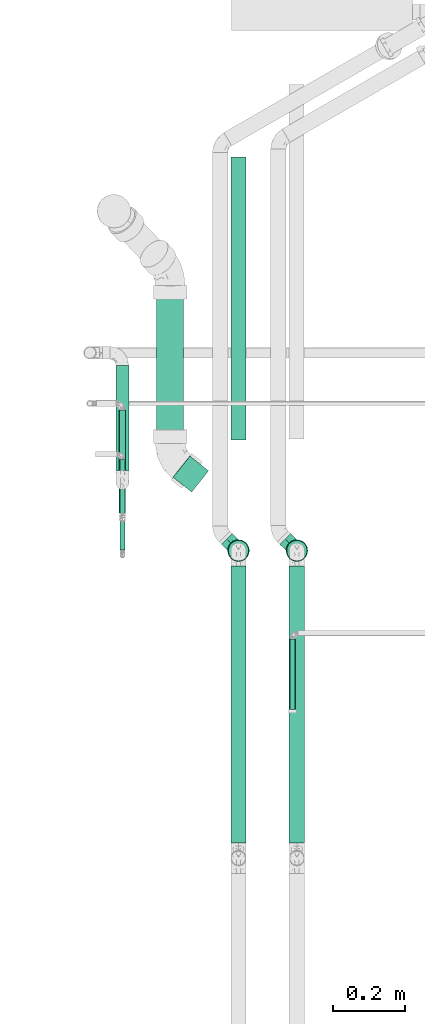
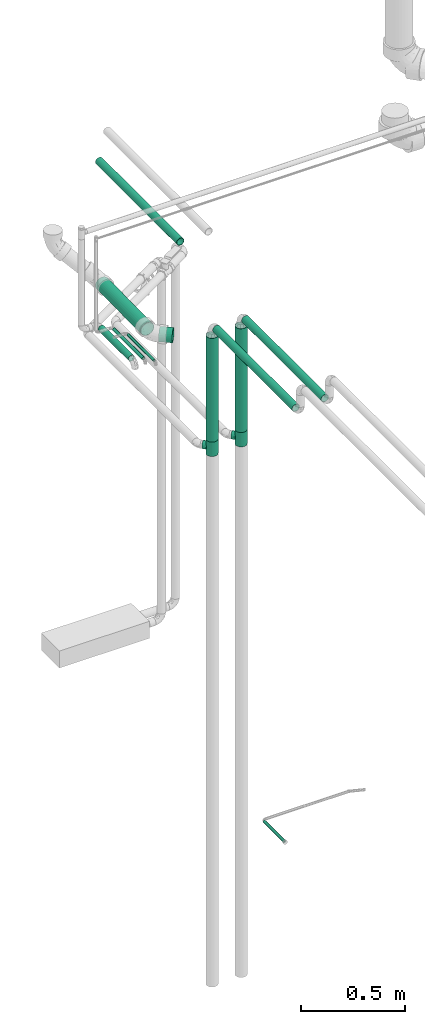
# One storey, part 35 of 108: 11 flow segments, 2 flow fittings.
"""IFC2X3 building model written with IfcOpenShell, lengths in millimetres."""

from ifc_helpers import new_model, entity, si_unit, converted_unit, derived_unit, direction, frame, origin_with_axes, origin_2d_with_axis, place, context, subcontext, project, spatial, hollow_circle, extrude, open_shell, surface_model, source, transform, mapped, type_object, element, save


model = new_model("IFC2X3")

# Units and contexts
model_context = context("Model", 3, precision=0.01, world=frame((0.0, 4.29681676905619e-09, 0.0)), true_north=direction((4.01073788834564e-13, 1.0)))
plan_context = context("Plan", 3, precision=0.01, world=frame((0.0, 4.29681676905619e-09, 0.0)), true_north=direction((4.01073788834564e-13, 1.0)))
body_context = subcontext(model_context, "Body", "Model", "MODEL_VIEW")
ifc_project = project(units=[converted_unit("PLANEANGLEUNIT", "DEGREE", entity("IfcPositiveLengthMeasure", 0.0174532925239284), si_unit("PLANEANGLEUNIT", "RADIAN"), dimensions=[0, 0, 0, 0, 0, 0, 0]), si_unit("AREAUNIT", "SQUARE_METRE"), si_unit("LENGTHUNIT", "METRE", prefix="MILLI"), si_unit("MASSUNIT", "GRAM", prefix="KILO"), si_unit("POWERUNIT", "WATT"), si_unit("PRESSUREUNIT", "PASCAL", prefix="KILO"), si_unit("FORCEUNIT", "NEWTON", prefix="KILO"), si_unit("ELECTRICVOLTAGEUNIT", "VOLT"), si_unit("ELECTRICCURRENTUNIT", "AMPERE"), si_unit("THERMODYNAMICTEMPERATUREUNIT", "DEGREE_CELSIUS"), si_unit("TIMEUNIT", "SECOND"), si_unit("VOLUMEUNIT", "CUBIC_METRE"), derived_unit("LINEARVELOCITYUNIT", [(si_unit("LENGTHUNIT", "METRE"), 1), (si_unit("TIMEUNIT", "SECOND"), -1)]), derived_unit("VOLUMETRICFLOWRATEUNIT", [(si_unit("VOLUMEUNIT", "CUBIC_METRE"), 1), (si_unit("TIMEUNIT", "SECOND"), -1)]), derived_unit("THERMALTRANSMITTANCEUNIT", [(si_unit("POWERUNIT", "WATT"), 1), (si_unit("THERMODYNAMICTEMPERATUREUNIT", "KELVIN"), -1), (si_unit("AREAUNIT", "SQUARE_METRE"), -1)]), derived_unit("SOUNDPRESSUREUNIT", [(si_unit("PRESSUREUNIT", "PASCAL"), 1)])], contexts=[model_context, plan_context])

# Site, building, storey
site_placement = place(None, frame((0.0, -4.29681676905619e-09, 0.0), z_axis=(0.0, 0.0, 1.0), x_axis=(1.0, 0.0, 0.0)))
site = spatial("IfcSite", under=ifc_project, at=site_placement, CompositionType="ELEMENT")
building_placement = place(site_placement, frame((0.0, 4.29681676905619e-09, 0.0), z_axis=(0.0, 0.0, 1.0), x_axis=(1.0, 0.0, 0.0)))
building = spatial("IfcBuilding", under=site, at=building_placement, Name="mc-building", CompositionType="ELEMENT")
storey_placement = place(building_placement, frame((0.0, 0.0, 210200.0), z_axis=(0.0, 0.0, 1.0), x_axis=(1.0, 0.0, 0.0)))
storey = spatial("IfcBuildingStorey", under=building, at=storey_placement, Name="Nivå F - 0,7 m", CompositionType="ELEMENT", Elevation=210200.0)

# Flow fittings
pipe_fitting_type = type_object("IfcPipeFittingType", Name="magi_pipe_fe_tee_centric_90_001", PredefinedType="JUNCTION")
shared_shape_1 = source(origin_with_axes(), body_context, "Body", "SurfaceModel", [
    surface_model("IfcShellBasedSurfaceModel", [(-42.4, 15.1, -26.15397), (-42.4, 7.81634, -29.17096), (-42.4, 0.0, -30.2), (-42.4, 29.17096, -7.81634), (-42.4, 26.15397, -15.1), (-42.4, 21.35462, -21.35462), (-42.4, 30.2, 0.0), (-42.4, -30.2, 0.0), (-42.4, -15.1, -26.15397), (-42.4, -21.35462, -21.35462), (-42.4, -7.81634, -29.17096), (-42.4, -26.15397, -15.1), (-42.4, -29.17096, -7.81634), (-42.4, 26.15397, 15.1), (-42.4, 29.17096, 7.81634), (-42.4, 15.1, 26.15397), (-42.4, -21.35462, 21.35462), (-42.4, 21.35462, 21.35462), (-42.4, 7.81634, 29.17096), (-42.4, -29.17096, 7.81634), (-42.4, -26.15397, 15.1), (-42.4, -15.1, 26.15397), (-42.4, -7.81634, 29.17096), (-42.4, 0.0, 30.2), (42.4, 29.17096, -7.81634), (42.4, 0.0, -30.2), (42.4, 7.81634, -29.17096), (42.4, 21.35462, -21.35462), (42.4, 15.1, -26.15397), (42.4, 26.15397, -15.1), (42.4, -15.1, -26.15397), (42.4, -29.17096, -7.81634), (42.4, -21.35462, -21.35462), (42.4, -7.81634, -29.17096), (42.4, -26.15397, -15.1), (42.4, -30.2, 0.0), (42.4, 30.2, 0.0), (42.4, 29.17096, 7.81634), (42.4, 26.15397, 15.1), (42.4, -15.1, 26.15397), (42.4, 15.1, 26.15397), (42.4, 7.81634, 29.17096), (42.4, 21.35462, 21.35462), (42.4, 0.0, 30.2), (42.4, -26.15397, 15.1), (42.4, -29.17096, 7.81634), (42.4, -21.35462, 21.35462), (42.4, -7.81634, 29.17096), (19.84181, -29.26256, 7.46609), (21.2, -30.2, 0.0), (16.14301, -26.89232, 13.74202), (42.4, -23.7543, 18.22731), (10.69837, -24.02197, 18.30259), (3.8093, -21.84287, 20.85496), (-3.8158, -21.844, 20.85377), (-10.70022, -24.0228, 18.30151), (-42.4, -23.7543, 18.22731), (-21.2, -30.2, 0.0), (-19.84258, -29.26308, 7.46405), (-16.14727, -26.89488, 13.73701), (3.8093, -21.84287, -20.85496), (42.4, -23.7543, -18.22731), (10.69837, -24.02197, -18.30259), (-10.70022, -24.0228, -18.30151), (-42.4, -23.7543, -18.22731), (16.14301, -26.89232, -13.74202), (-3.8158, -21.844, -20.85377), (19.84181, -29.26256, -7.46609), (-16.14727, -26.89488, -13.73701), (-19.84258, -29.26308, -7.46405), (14.99066, -45.3, -14.99066), (0.0, -45.3, -21.2), (5.48696, -45.3, -20.47763), (10.6, -45.3, -18.35974), (18.35974, -45.3, -10.6), (20.47763, -45.3, -5.48696), (-21.2, -45.3, 0.0), (-10.6, -45.3, 18.35974), (-5.48696, -45.3, -20.47763), (-14.99066, -45.3, -14.99066), (-10.6, -45.3, -18.35974), (-18.35974, -45.3, -10.6), (-20.47763, -45.3, -5.48696), (20.47763, -45.3, 5.48696), (18.35974, -45.3, 10.6), (10.6, -45.3, 18.35974), (14.99066, -45.3, 14.99066), (0.0, -45.3, 21.2), (5.48696, -45.3, 20.47763), (-14.99066, -45.3, 14.99066), (-18.35974, -45.3, 10.6), (-20.47763, -45.3, 5.48696), (-5.48696, -45.3, 20.47763), (21.2, -45.3, 0.0), (-20.52129, -29.73154, 3.73203), (-0.00325, -21.84343, 20.85436), (20.52091, -29.73128, 3.73304), (20.52091, -29.73128, -3.73304), (-0.00325, -21.84343, -20.85436), (-20.52129, -29.73154, -3.73203)], [open_shell([[[0, 1, 2]], [[3, 0, 2]], [[0, 3, 4]], [[5, 0, 4]], [[6, 2, 7]], [[8, 9, 10]], [[9, 2, 10]], [[11, 12, 9]], [[7, 9, 12]], [[9, 7, 2]], [[6, 3, 2]], [[13, 14, 6]], [[7, 15, 13]], [[7, 16, 15]], [[17, 13, 15]], [[18, 15, 16]], [[19, 20, 7]], [[7, 20, 16]], [[21, 22, 16]], [[23, 16, 22]], [[16, 23, 18]], [[7, 13, 6]], [[24, 25, 26]], [[27, 26, 28]], [[27, 29, 24]], [[27, 24, 26]], [[25, 24, 30]], [[30, 31, 32]], [[30, 33, 25]], [[32, 31, 34]], [[31, 30, 35]], [[24, 35, 30]], [[24, 36, 35]], [[36, 37, 38]], [[39, 36, 38]], [[40, 41, 38]], [[40, 38, 42]], [[43, 38, 41]], [[35, 44, 45]], [[46, 44, 35]], [[39, 43, 47]], [[46, 36, 39]], [[38, 43, 39]], [[46, 35, 36]], [[35, 45, 48]], [[48, 49, 35]], [[45, 50, 48]], [[51, 46, 52]], [[52, 50, 44]], [[53, 52, 46]], [[54, 53, 21]], [[44, 50, 45]], [[55, 16, 56]], [[57, 58, 7]], [[19, 7, 58]], [[58, 59, 19]], [[55, 54, 16]], [[55, 20, 59]], [[20, 55, 56]], [[59, 20, 19]], [[16, 54, 21]], [[52, 44, 51]], [[53, 46, 39]], [[23, 47, 43]], [[22, 39, 47]], [[18, 43, 41]], [[38, 37, 14]], [[17, 40, 42]], [[13, 42, 38]], [[41, 40, 15]], [[6, 37, 36]], [[21, 39, 22]], [[22, 47, 23]], [[18, 23, 43]], [[41, 15, 18]], [[15, 40, 17]], [[13, 17, 42]], [[14, 13, 38]], [[37, 6, 14]], [[39, 21, 53]], [[4, 24, 29]], [[3, 36, 24]], [[5, 29, 27]], [[25, 33, 10]], [[1, 28, 26]], [[2, 26, 25]], [[27, 28, 0]], [[8, 33, 30]], [[6, 36, 3]], [[3, 24, 4]], [[5, 4, 29]], [[27, 0, 5]], [[0, 28, 1]], [[2, 1, 26]], [[10, 2, 25]], [[33, 8, 10]], [[30, 60, 8]], [[61, 34, 62]], [[63, 11, 64]], [[62, 60, 32]], [[34, 65, 62]], [[66, 8, 60]], [[31, 35, 67]], [[67, 65, 31]], [[49, 67, 35]], [[31, 65, 34]], [[66, 63, 9]], [[62, 32, 61]], [[64, 9, 63]], [[63, 68, 11]], [[9, 8, 66]], [[68, 69, 12]], [[69, 7, 12]], [[7, 69, 57]], [[68, 12, 11]], [[60, 30, 32]], [[70, 71, 72]], [[70, 72, 73]], [[70, 74, 75]], [[70, 75, 71]], [[76, 71, 77]], [[78, 79, 80]], [[78, 71, 79]], [[81, 76, 82]], [[79, 71, 81]], [[71, 76, 81]], [[71, 75, 77]], [[83, 84, 75]], [[84, 85, 75]], [[85, 77, 75]], [[85, 84, 86]], [[87, 85, 88]], [[76, 89, 90]], [[91, 76, 90]], [[77, 87, 92]], [[77, 89, 76]], [[85, 87, 77]], [[75, 93, 83]], [[91, 94, 76]], [[59, 90, 89]], [[91, 90, 58]], [[89, 77, 55]], [[94, 57, 76]], [[58, 90, 59]], [[55, 92, 54]], [[55, 59, 89]], [[87, 53, 95]], [[55, 77, 92]], [[87, 88, 53]], [[96, 48, 83]], [[52, 88, 85]], [[48, 84, 83]], [[96, 93, 49]], [[87, 54, 92]], [[91, 58, 94]], [[88, 52, 53]], [[52, 85, 86]], [[52, 86, 50]], [[50, 86, 84]], [[50, 84, 48]], [[93, 96, 83]], [[95, 54, 87]], [[75, 97, 93]], [[65, 74, 70]], [[75, 74, 67]], [[70, 73, 62]], [[97, 49, 93]], [[67, 74, 65]], [[62, 72, 60]], [[62, 65, 70]], [[71, 66, 98]], [[62, 73, 72]], [[99, 76, 57]], [[99, 69, 82]], [[63, 80, 79]], [[75, 67, 97]], [[69, 81, 82]], [[81, 68, 79]], [[71, 60, 72]], [[66, 78, 63]], [[66, 71, 78]], [[78, 80, 63]], [[63, 79, 68]], [[68, 81, 69]], [[76, 99, 82]], [[98, 60, 71]]])]),
])
for number, where, z_axis, x_axis, name in (
    (1, (324610.22236, 462903.525, 2171.0), (0.707106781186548, 0.707106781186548, 0.0), (0.0, 0.0, 1.0), "magi_pipe_fe_tee_centric_90_001"),
    (2, (324448.8625, 462903.525, 2171.0), (0.707106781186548, 0.707106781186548, 0.0), (0.0, 0.0, 1.0), "magi_pipe_fe_tee_centric_90_001"),
):
    element("IfcFlowFitting", number, at=place(storey_placement, frame(where, z_axis=z_axis, x_axis=x_axis)), inside=storey, type_object=pipe_fitting_type, Name=name, context=body_context, shape_type="MappedRepresentation", body=[
        mapped(shared_shape_1, transform((0.0, 0.0, 0.0), scale=1.0)),
    ])

# Flow segments
pipe_segment_type_1 = type_object("IfcPipeSegmentType", Name="Stålrør normaltykke", PredefinedType="RIGIDSEGMENT")
shared_shape_2 = source(origin_with_axes(), body_context, "Body", "SweptSolid", [
    extrude(hollow_circle(Radius=21.2, WallThickness=2.0, at=origin_2d_with_axis()), frame((0.0, 0.0, 0.0), z_axis=(1.0, 0.0, 0.0), x_axis=(0.0, 1.0, 0.0)), (0.0, 0.0, 1.0), 764.6),
])
for number, where, z_axis, x_axis in (
    (3, (324610.22236, 462096.52277, 2883.28479999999), (0.0, 0.0, 1.0), (0.0, 1.0, 0.0)),
    (4, (324448.8625, 462096.52277, 2883.28479999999), (0.0, 0.0, 1.0), (0.0, 1.0, 0.0)),
):
    element("IfcFlowSegment", number, at=place(storey_placement, frame(where, z_axis=z_axis, x_axis=x_axis)), inside=storey, type_object=pipe_segment_type_1, Name="Stålrør normaltykke", context=body_context, shape_type="MappedRepresentation", body=[
        mapped(shared_shape_2, transform((0.0, 0.0, 0.0), scale=1.0)),
    ])
shared_shape_3 = source(origin_with_axes(), body_context, "Body", "SweptSolid", [
    extrude(hollow_circle(Radius=21.2, WallThickness=2.0, at=origin_2d_with_axis()), frame((0.0, 0.0, 0.0), z_axis=(1.0, 0.0, 0.0), x_axis=(0.0, 1.0, 0.0)), (0.0, 0.0, 1.0), 781.5),
])
flow_segment_1_placement = place(storey_placement, frame((324448.8625, 463990.06537, 3186.0), z_axis=(0.0, 0.0, 1.0), x_axis=(0.0, -1.0, 0.0)))
element("IfcFlowSegment", 5, at=flow_segment_1_placement, inside=storey, type_object=pipe_segment_type_1, Name="Stålrør normaltykke", context=body_context, shape_type="MappedRepresentation", body=[
    mapped(shared_shape_3, transform((0.0, 0.0, 0.0), scale=1.0)),
])
pipe_segment_type_2 = type_object("IfcPipeSegmentType", Name="Kobberrør", PredefinedType="RIGIDSEGMENT")
shared_shape_4 = source(origin_with_axes(), body_context, "Body", "SweptSolid", [
    extrude(hollow_circle(Radius=7.5, WallThickness=2.0, at=origin_2d_with_axis()), frame((0.0, 0.0, 0.0), z_axis=(1.0, 0.0, 0.0), x_axis=(0.0, 1.0, 0.0)), (0.0, 0.0, 1.0), 195.0),
])
flow_segment_2_placement = place(storey_placement, frame((324598.31018, 462660.12547, 58.8447400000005), z_axis=(0.0, 0.0, 1.0), x_axis=(0.0, -1.0, 0.0)))
element("IfcFlowSegment", 6, at=flow_segment_2_placement, inside=storey, type_object=pipe_segment_type_2, Name="Kobberrør", context=body_context, shape_type="MappedRepresentation", body=[
    mapped(shared_shape_4, transform((0.0, 0.0, 0.0), scale=1.0)),
])
pipe_segment_type_3 = type_object("IfcPipeSegmentType", Name="MA", PredefinedType="RIGIDSEGMENT")
shared_shape_5 = source(origin_with_axes(), body_context, "Body", "SweptSolid", [
    extrude(hollow_circle(Radius=37.5, WallThickness=2.0, at=origin_2d_with_axis()), frame((0.0, 0.0, 0.0), z_axis=(1.0, 0.0, 0.0), x_axis=(0.0, 1.0, 0.0)), (0.0, 0.0, 1.0), 65.5),
])
flow_segment_3_placement = place(storey_placement, frame((324342.62648, 463094.65977, 2742.01558000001), z_axis=(0.00783000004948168, -0.00621900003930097, 0.999950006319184), x_axis=(-0.783000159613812, 0.621941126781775, 0.00999924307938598)))
element("IfcFlowSegment", 7, at=flow_segment_3_placement, inside=storey, type_object=pipe_segment_type_3, Name="MA", context=body_context, shape_type="MappedRepresentation", body=[
    mapped(shared_shape_5, transform((0.0, 0.0, 0.0), scale=1.0)),
])
shared_shape_6 = source(origin_with_axes(), body_context, "Body", "SweptSolid", [
    extrude(hollow_circle(Radius=37.5, WallThickness=2.0, at=origin_2d_with_axis()), frame((0.0, 0.0, 0.0), z_axis=(1.0, 0.0, 0.0), x_axis=(0.0, 1.0, 0.0)), (0.0, 0.0, 1.0), 435.4),
])
flow_segment_4_placement = place(storey_placement, frame((324260.14194, 463200.00177, 2743.46721), z_axis=(0.0, -0.0100259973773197, 0.999949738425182), x_axis=(0.0, 0.999949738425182, 0.0100259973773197)))
element("IfcFlowSegment", 8, at=flow_segment_4_placement, inside=storey, type_object=pipe_segment_type_3, Name="MA", context=body_context, shape_type="MappedRepresentation", body=[
    mapped(shared_shape_6, transform((0.0, 0.0, 0.0), scale=1.0)),
])
shared_shape_7 = source(origin_with_axes(), body_context, "Body", "SweptSolid", [
    extrude(hollow_circle(Radius=30.1, WallThickness=2.0, at=origin_2d_with_axis()), frame((0.0, 0.0, 0.0), z_axis=(1.0, 0.0, 0.0), x_axis=(0.0, 1.0, 0.0)), (0.0, 0.0, 1.0), 609.5),
])
for number, where, z_axis, x_axis in (
    (9, (324610.22236, 462903.525, 2822.8848), (1.0, 0.0, 0.0), (0.0, 0.0, -1.0)),
    (10, (324448.8625, 462903.525, 2822.8848), (1.0, 0.0, 0.0), (0.0, 0.0, -1.0)),
):
    element("IfcFlowSegment", number, at=place(storey_placement, frame(where, z_axis=z_axis, x_axis=x_axis)), inside=storey, type_object=pipe_segment_type_1, Name="Stålrør normaltykke", context=body_context, shape_type="MappedRepresentation", body=[
        mapped(shared_shape_7, transform((0.0, 0.0, 0.0), scale=1.0)),
    ])
shared_shape_8 = source(origin_with_axes(), body_context, "Body", "SweptSolid", [
    extrude(hollow_circle(Radius=17.5, WallThickness=2.0, at=origin_2d_with_axis()), frame((0.0, 0.0, 0.0), z_axis=(1.0, 0.0, 0.0), x_axis=(0.0, 1.0, 0.0)), (0.0, 0.0, 1.0), 290.0),
])
flow_segment_5_placement = place(storey_placement, frame((324128.525, 463125.0, 2663.34624000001), z_axis=(0.0, 0.0, 1.0), x_axis=(0.0, 1.0, 0.0)))
element("IfcFlowSegment", 11, at=flow_segment_5_placement, inside=storey, type_object=pipe_segment_type_2, Name="Kobberrør", context=body_context, shape_type="MappedRepresentation", body=[
    mapped(shared_shape_8, transform((0.0, 0.0, 0.0), scale=1.0)),
])
shared_shape_9 = source(origin_with_axes(), body_context, "Body", "SweptSolid", [
    extrude(hollow_circle(Radius=9.0, WallThickness=2.0, at=origin_2d_with_axis()), frame((0.0, 0.0, 0.0), z_axis=(1.0, 0.0, 0.0), x_axis=(0.0, 1.0, 0.0)), (0.0, 0.0, 1.0), 284.0),
])
flow_segment_6_placement = place(storey_placement, frame((324128.525, 463008.0, 2732.14094000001), z_axis=(0.0, 0.0, 1.0), x_axis=(0.0, 1.0, 0.0)))
element("IfcFlowSegment", 12, at=flow_segment_6_placement, inside=storey, type_object=pipe_segment_type_2, Name="Kobberrør", context=body_context, shape_type="MappedRepresentation", body=[
    mapped(shared_shape_9, transform((0.0, 0.0, 0.0), scale=1.0)),
])
shared_shape_10 = source(origin_with_axes(), body_context, "Body", "SweptSolid", [
    extrude(hollow_circle(Radius=7.5, WallThickness=2.0, at=origin_2d_with_axis()), frame((0.0, 0.0, 0.0), z_axis=(1.0, 0.0, 0.0), x_axis=(0.0, 1.0, 0.0)), (0.0, 0.0, 1.0), 250.0),
])
flow_segment_7_placement = place(storey_placement, frame((324128.525, 462904.9996, 2783.43293000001), z_axis=(0.0, -3.3999999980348e-05, 0.999999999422), x_axis=(0.0, 0.999999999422, 3.3999999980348e-05)))
element("IfcFlowSegment", 13, at=flow_segment_7_placement, inside=storey, type_object=pipe_segment_type_2, Name="Kobberrør", context=body_context, shape_type="MappedRepresentation", body=[
    mapped(shared_shape_10, transform((0.0, 0.0, 0.0), scale=1.0)),
])

save(model, "model.ifc")
